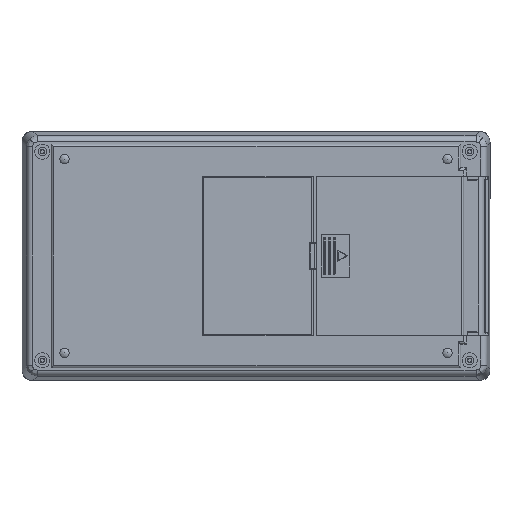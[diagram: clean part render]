
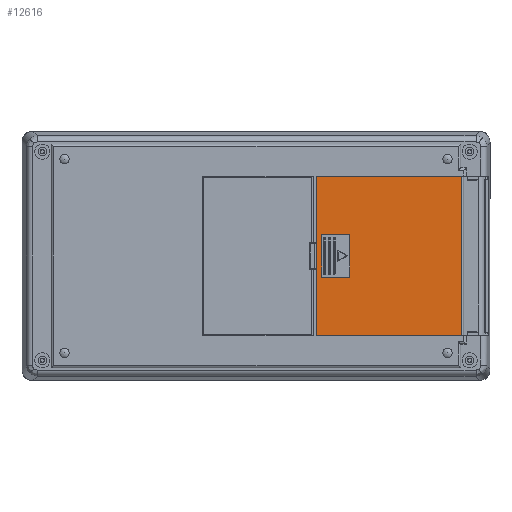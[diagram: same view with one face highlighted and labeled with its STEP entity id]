
A CAD part, front view. The second image highlights one B-rep face of the part: STEP entity #12616.
In plain terms, the highlighted planar face has unit normal (0, -1, 0).
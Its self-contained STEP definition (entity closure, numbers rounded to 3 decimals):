
#441 = EDGE_CURVE ( 'NONE', #9924, #7798, #11574, .T. ) ;
#633 = VECTOR ( 'NONE', #9809, 1000. ) ;
#741 = VECTOR ( 'NONE', #11613, 1000. ) ;
#834 = EDGE_LOOP ( 'NONE', ( #16847, #16752, #8070, #14821 ) ) ;
#1107 = DIRECTION ( 'NONE',  ( 1., 0., 0. ) ) ;
#1158 = CARTESIAN_POINT ( 'NONE',  ( 84.05, 0., 32.4 ) ) ;
#1216 = DIRECTION ( 'NONE',  ( 0., 0., -1. ) ) ;
#1394 = CARTESIAN_POINT ( 'NONE',  ( 27.2, 0., -8.75 ) ) ;
#1941 = EDGE_CURVE ( 'NONE', #10002, #10709, #15661, .T. ) ;
#2140 = CARTESIAN_POINT ( 'NONE',  ( 25.2, 0., 32.4 ) ) ;
#2655 = CARTESIAN_POINT ( 'NONE',  ( 27.2, 0., 8.75 ) ) ;
#2790 = CARTESIAN_POINT ( 'NONE',  ( 38.7, 0., 8.75 ) ) ;
#2827 = PLANE ( 'NONE',  #10430 ) ;
#3248 = EDGE_CURVE ( 'NONE', #6180, #6071, #14072, .T. ) ;
#3268 = DIRECTION ( 'NONE',  ( 1., 0., 0. ) ) ;
#4226 = DIRECTION ( 'NONE',  ( 0., 0., 1. ) ) ;
#4491 = CARTESIAN_POINT ( 'NONE',  ( 25.2, 0., -32.4 ) ) ;
#4982 = EDGE_CURVE ( 'NONE', #15456, #7798, #14753, .T. ) ;
#5915 = EDGE_CURVE ( 'NONE', #8913, #15456, #17095, .T. ) ;
#6071 = VERTEX_POINT ( 'NONE', #16481 ) ;
#6180 = VERTEX_POINT ( 'NONE', #1394 ) ;
#6190 = LINE ( 'NONE', #15786, #12736 ) ;
#6900 = ORIENTED_EDGE ( 'NONE', *, *, #12715, .F. ) ;
#7353 = EDGE_LOOP ( 'NONE', ( #15468, #10190, #14880, #6900 ) ) ;
#7798 = VERTEX_POINT ( 'NONE', #17045 ) ;
#7805 = EDGE_CURVE ( 'NONE', #8913, #9924, #6190, .T. ) ;
#8070 = ORIENTED_EDGE ( 'NONE', *, *, #7805, .F. ) ;
#8170 = LINE ( 'NONE', #10218, #741 ) ;
#8791 = DIRECTION ( 'NONE',  ( -1., 0., 0. ) ) ;
#8913 = VERTEX_POINT ( 'NONE', #12989 ) ;
#9678 = VECTOR ( 'NONE', #11857, 1000. ) ;
#9809 = DIRECTION ( 'NONE',  ( 0., 0., 1. ) ) ;
#9923 = FACE_BOUND ( 'NONE', #7353, .T. ) ;
#9924 = VERTEX_POINT ( 'NONE', #10313 ) ;
#10002 = VERTEX_POINT ( 'NONE', #10440 ) ;
#10156 = EDGE_CURVE ( 'NONE', #6071, #10002, #11776, .T. ) ;
#10190 = ORIENTED_EDGE ( 'NONE', *, *, #10156, .F. ) ;
#10218 = CARTESIAN_POINT ( 'NONE',  ( 27.2, 0., 8.75 ) ) ;
#10313 = CARTESIAN_POINT ( 'NONE',  ( 84.05, 0., 32.4 ) ) ;
#10363 = FACE_OUTER_BOUND ( 'NONE', #834, .T. ) ;
#10430 = AXIS2_PLACEMENT_3D ( 'NONE', #15290, #12607, #4226 ) ;
#10440 = CARTESIAN_POINT ( 'NONE',  ( 38.7, 0., 8.75 ) ) ;
#10605 = VECTOR ( 'NONE', #11508, 1000. ) ;
#10709 = VERTEX_POINT ( 'NONE', #2655 ) ;
#11479 = CARTESIAN_POINT ( 'NONE',  ( 38.7, 0., 8.75 ) ) ;
#11508 = DIRECTION ( 'NONE',  ( 1., 0., 0. ) ) ;
#11530 = CARTESIAN_POINT ( 'NONE',  ( 25.2, 0., -32.4 ) ) ;
#11574 = LINE ( 'NONE', #1158, #15286 ) ;
#11613 = DIRECTION ( 'NONE',  ( 0., 0., -1. ) ) ;
#11776 = LINE ( 'NONE', #2790, #633 ) ;
#11857 = DIRECTION ( 'NONE',  ( 0., 0., -1. ) ) ;
#11960 = VECTOR ( 'NONE', #8791, 1000. ) ;
#12300 = CARTESIAN_POINT ( 'NONE',  ( 38.7, 0., -8.75 ) ) ;
#12607 = DIRECTION ( 'NONE',  ( 0., 1., 0. ) ) ;
#12616 = ADVANCED_FACE ( 'NONE', ( #9923, #10363 ), #2827, .F. ) ;
#12715 = EDGE_CURVE ( 'NONE', #10709, #6180, #8170, .T. ) ;
#12736 = VECTOR ( 'NONE', #3268, 1000. ) ;
#12989 = CARTESIAN_POINT ( 'NONE',  ( 25.2, 0., 32.4 ) ) ;
#14072 = LINE ( 'NONE', #12300, #16893 ) ;
#14753 = LINE ( 'NONE', #4491, #10605 ) ;
#14821 = ORIENTED_EDGE ( 'NONE', *, *, #5915, .T. ) ;
#14880 = ORIENTED_EDGE ( 'NONE', *, *, #3248, .F. ) ;
#15286 = VECTOR ( 'NONE', #1216, 1000. ) ;
#15290 = CARTESIAN_POINT ( 'NONE',  ( 25.2, 0., 32.4 ) ) ;
#15456 = VERTEX_POINT ( 'NONE', #11530 ) ;
#15468 = ORIENTED_EDGE ( 'NONE', *, *, #1941, .F. ) ;
#15661 = LINE ( 'NONE', #11479, #11960 ) ;
#15786 = CARTESIAN_POINT ( 'NONE',  ( 25.2, 0., 32.4 ) ) ;
#16481 = CARTESIAN_POINT ( 'NONE',  ( 38.7, 0., -8.75 ) ) ;
#16752 = ORIENTED_EDGE ( 'NONE', *, *, #441, .F. ) ;
#16847 = ORIENTED_EDGE ( 'NONE', *, *, #4982, .T. ) ;
#16893 = VECTOR ( 'NONE', #1107, 1000. ) ;
#17045 = CARTESIAN_POINT ( 'NONE',  ( 84.05, 0., -32.4 ) ) ;
#17095 = LINE ( 'NONE', #2140, #9678 ) ;
